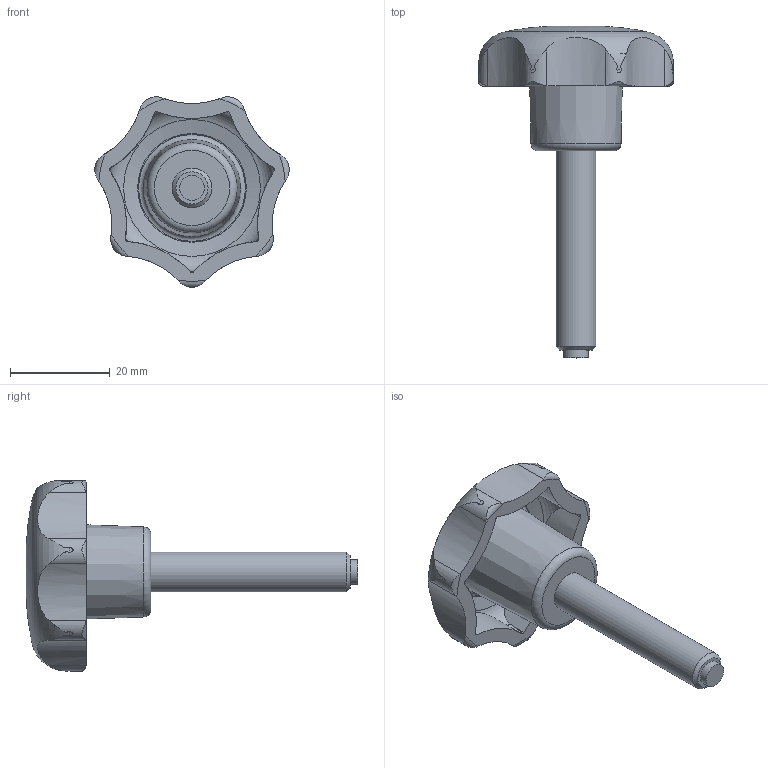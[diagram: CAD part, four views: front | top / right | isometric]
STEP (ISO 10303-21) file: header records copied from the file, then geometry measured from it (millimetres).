
FILE_DESCRIPTION( ( 'STEP AP203' ), '1' );
FILE_NAME( 'C:/Temp/Ganter_Step_05_03_2020/data/2_2/gn6336_10/Star knob GN 6336.10-40-M8-40-KU.stp', '2020-03-05T12:04:25', ( 'License CC BY-ND 4.0' ), ( 'CADENAS' ), ' ', 'PARTsolutions', ' ' );
FILE_SCHEMA( ( 'CONFIG_CONTROL_DESIGN' ) );
Length unit declared in the file: millimetre
Products named in the file (1): _Star knob GN 6336.10-40-M8-40-KU
Bounding box: 39.03 x 66.67 x 38.23 mm (x, y, z)
Volume: 13545 mm3; surface area: 6145.4 mm2
Topology: 1 solids, 1 shells, 64 faces, 188 edges, 128 vertices
Faces by surface type: cylinder 30, cone 17, torus 12, plane 4, bspline 1
Full cylindrical faces by diameter (mm): 5 x1, 8 x1
Entity records: 3177 total; most frequent: CARTESIAN_POINT 1616, ORIENTED_EDGE 346, DIRECTION 264, EDGE_CURVE 173, VERTEX_POINT 126, AXIS2_PLACEMENT_3D 118, B_SPLINE_CURVE_WITH_KNOTS 91, EDGE_LOOP 77
